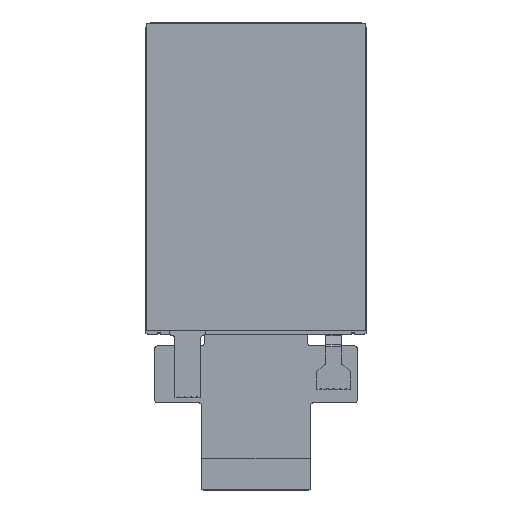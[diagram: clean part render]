
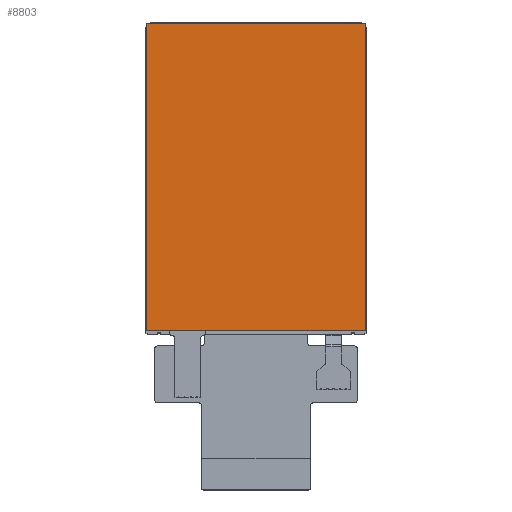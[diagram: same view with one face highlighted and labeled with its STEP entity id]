
A CAD part, top view. The second image highlights one B-rep face of the part: STEP entity #8803.
In plain terms, the highlighted planar face has unit normal (0, 0, 1) as drawn and (0, 0, -1) by its records, which use the part's own axes.
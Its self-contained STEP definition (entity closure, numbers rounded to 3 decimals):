
#8107=DIRECTION('',(0.,-1.,0.));
#8108=VECTOR('',#8107,59.26);
#8109=CARTESIAN_POINT('',(21.16,27.3,-0.98));
#8110=LINE('',#8109,#8108);
#8111=DIRECTION('',(1.,0.,0.));
#8112=VECTOR('',#8111,42.32);
#8113=CARTESIAN_POINT('',(-21.16,27.3,-0.98));
#8114=LINE('',#8113,#8112);
#8115=DIRECTION('',(0.,1.,0.));
#8116=VECTOR('',#8115,59.26);
#8117=CARTESIAN_POINT('',(-21.16,-31.96,-0.98));
#8118=LINE('',#8117,#8116);
#8119=DIRECTION('',(-1.,0.,0.));
#8120=VECTOR('',#8119,42.32);
#8121=CARTESIAN_POINT('',(21.16,-31.96,-0.98));
#8122=LINE('',#8121,#8120);
#8171=CARTESIAN_POINT('',(21.16,27.3,-0.98));
#8172=CARTESIAN_POINT('',(21.16,-31.96,-0.98));
#8173=VERTEX_POINT('',#8171);
#8174=VERTEX_POINT('',#8172);
#8175=CARTESIAN_POINT('',(-21.16,-31.96,-0.98));
#8176=VERTEX_POINT('',#8175);
#8177=CARTESIAN_POINT('',(-21.16,27.3,-0.98));
#8178=VERTEX_POINT('',#8177);
#8790=CARTESIAN_POINT('',(0.,0.,-0.98));
#8791=DIRECTION('',(0.,0.,-1.));
#8792=DIRECTION('',(-1.,0.,0.));
#8793=AXIS2_PLACEMENT_3D('',#8790,#8791,#8792);
#8794=PLANE('',#8793);
#8796=ORIENTED_EDGE('',*,*,#8795,.F.);
#8798=ORIENTED_EDGE('',*,*,#8797,.F.);
#8799=ORIENTED_EDGE('',*,*,#8782,.F.);
#8800=ORIENTED_EDGE('',*,*,#8326,.F.);
#8801=EDGE_LOOP('',(#8796,#8798,#8799,#8800));
#8802=FACE_OUTER_BOUND('',#8801,.F.);
#8803=ADVANCED_FACE('',(#8802),#8794,.T.);
#8326=EDGE_CURVE('',#8174,#8176,#8122,.T.);
#8782=EDGE_CURVE('',#8176,#8178,#8118,.T.);
#8795=EDGE_CURVE('',#8173,#8174,#8110,.T.);
#8797=EDGE_CURVE('',#8178,#8173,#8114,.T.);
